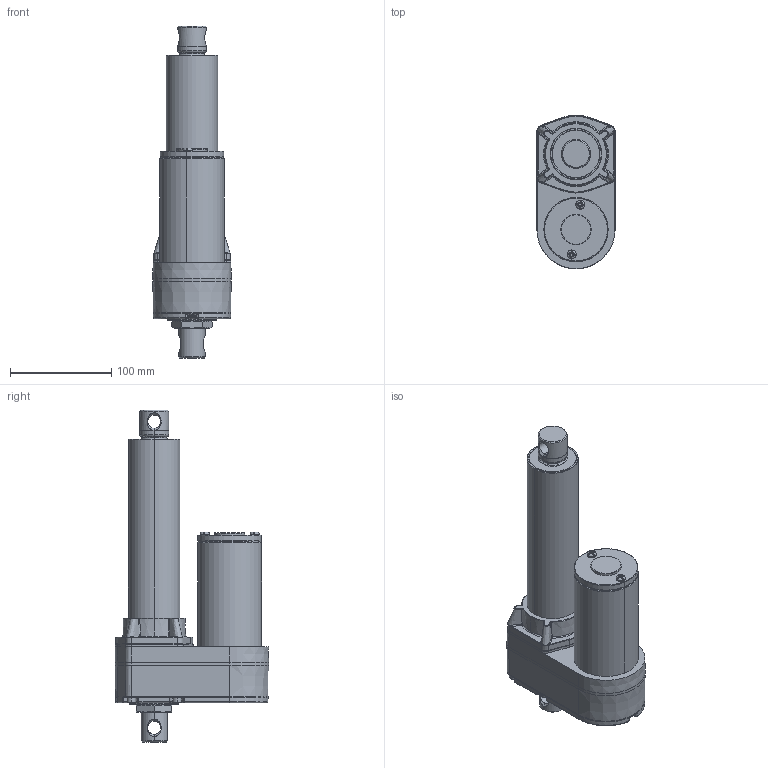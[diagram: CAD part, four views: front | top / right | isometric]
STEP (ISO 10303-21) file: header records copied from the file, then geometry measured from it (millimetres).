
FILE_DESCRIPTION (( 'STEP AP203' ), '1' );
FILE_NAME ('ID10-B-102-IP69K.STEP', '2022-10-05T00:56:02', ( '' ), ( '' ), 'SwSTEP 2.0', 'SolidWorks 2020', '' );
FILE_SCHEMA (( 'CONFIG_CONTROL_DESIGN' ));
Length unit declared in the file: millimetre
Products named in the file (3): ID10-B-1; ID10-B-2; ID10-B-102-IP69K
Assembly tree (2 placements, depth 2):
  ID10-B-102-IP69K
    ID10-B-1
    ID10-B-2
Bounding box: 77.3 x 151.8 x 327.5 mm (x, y, z)
Volume: 1427474.9 mm3; surface area: 154145.8 mm2
Topology: 2 solids, 23 shells, 1520 faces, 3685 edges, 2230 vertices
Faces by surface type: plane 689, cylinder 382, bspline 196, cone 132, torus 97, sphere 24
Entity records: 53114 total; most frequent: CARTESIAN_POINT 20051, ORIENTED_EDGE 7302, DIRECTION 6472, EDGE_CURVE 3651, AXIS2_PLACEMENT_3D 2573, VERTEX_POINT 2230, EDGE_LOOP 1593, FACE_OUTER_BOUND 1520
